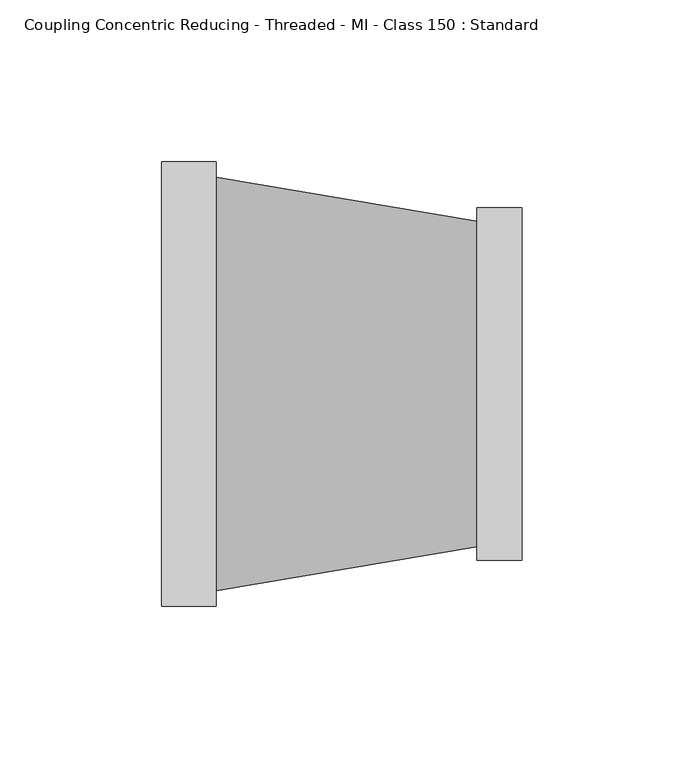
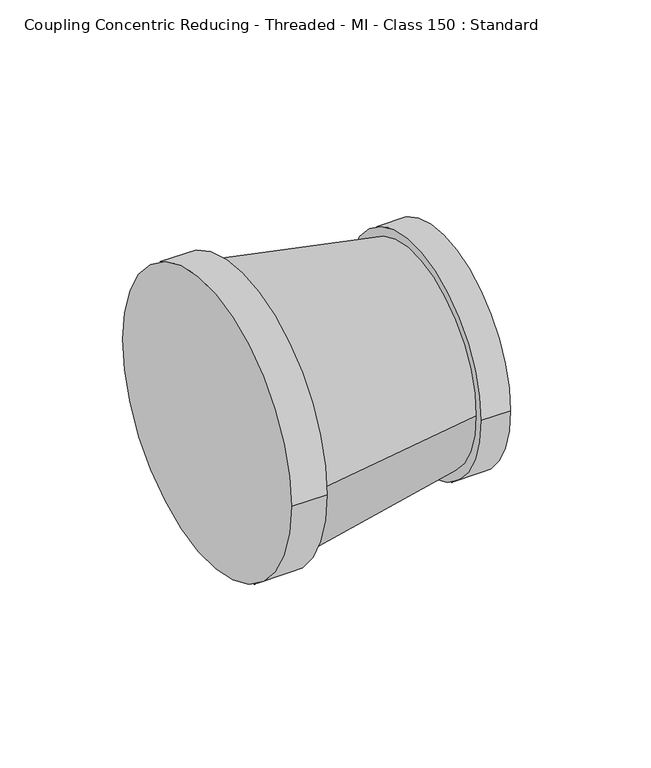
"""IFC4 building model written with IfcOpenShell, lengths in millimetres: pipe fitting geometry, Coupling Concentric Reducing - Threaded - MI - Class 150 : Standard."""

from ifc_helpers import new_model, si_unit, frame, origin, place, context, project, spatial, polyline, circle_curve, source, transform, mapped, element, save
from ifc_brep_helpers import plane_surface, cylinder_surface, revolved_surface, advanced_brep


def coupling_concentric_reducing_threaded_mi_class_150_standard_01227178(model_context):
    return source(origin(), model_context, "Body", "AdvancedBrep", [
        advanced_brep(
        [(16.8, 63.93, 0.0), (97.4, 50.32, 0.0), (97.4, -50.32, 0.0), (16.8, -63.93, 0.0), (111.3, -54.4, 0.0), (111.3, 54.4, 0.0), (97.4, -54.4, 0.0), (97.4, 54.4, 0.0), (16.8, -68.6, 0.0), (16.8, 68.6, 0.0), (0.0, -68.6, 0.0), (0.0, 68.6, 0.0)],
        [
            (0, 1),
            (1, 2, circle_curve(frame((97.4, 0.0, 0.0), z_axis=(-1.0, 0.0, 0.0), x_axis=(0.0, -1.0, 0.0)), 50.32)),
            (2, 3),
            (3, 0, circle_curve(frame((16.8, 0.0, 0.0), z_axis=(1.0, 0.0, 0.0), x_axis=(0.0, -1.0, 0.0)), 63.93)),
            (0, 3, circle_curve(frame((16.8, 0.0, 0.0), z_axis=(1.0, 0.0, 0.0), x_axis=(0.0, 1.0, 0.0)), 63.93)),
            (2, 1, circle_curve(frame((97.4, 0.0, 0.0), z_axis=(-1.0, 0.0, 0.0), x_axis=(0.0, 1.0, 0.0)), 50.32)),
            (4, 5, circle_curve(frame((111.3, 0.0, 0.0), z_axis=(1.0, 0.0, 0.0), x_axis=(0.0, 1.0, 0.0)), 54.4)),
            (5, 4, circle_curve(frame((111.3, 0.0, 0.0), z_axis=(1.0, 0.0, 0.0), x_axis=(0.0, 1.0, 0.0)), 54.4)),
            (6, 7, circle_curve(frame((97.4, 0.0, 0.0), z_axis=(-1.0, 0.0, 0.0), x_axis=(0.0, 1.0, 0.0)), 54.4)),
            (7, 6, circle_curve(frame((97.4, 0.0, 0.0), z_axis=(-1.0, 0.0, 0.0), x_axis=(0.0, 1.0, 0.0)), 54.4)),
            (4, 6),
            (7, 5),
            (8, 9, circle_curve(frame((16.8, 0.0, 0.0), z_axis=(1.0, 0.0, 0.0), x_axis=(0.0, 1.0, 0.0)), 68.6)),
            (9, 8, circle_curve(frame((16.8, 0.0, 0.0), z_axis=(1.0, 0.0, 0.0), x_axis=(0.0, 1.0, 0.0)), 68.6)),
            (10, 11, circle_curve(frame((0.0, 0.0, 0.0), z_axis=(-1.0, 0.0, 0.0), x_axis=(0.0, 1.0, 0.0)), 68.6)),
            (11, 10, circle_curve(frame((0.0, 0.0, 0.0), z_axis=(-1.0, 0.0, 0.0), x_axis=(0.0, 1.0, 0.0)), 68.6)),
            (8, 10),
            (11, 9),
        ],
        [
            revolved_surface(polyline([(97.39999999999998, 50.319999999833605, 0.0), (16.80000000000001, 63.93, 0.0)]), (395.4008817, 0.0, 0.0), (-1.0, 0.0, 0.0)),
            plane_surface(frame((111.3, 54.4, 0.0), z_axis=(1.0, 0.0, 0.0), x_axis=(0.0, 0.0, 1.0))),
            plane_surface(frame((97.4, 54.4, 0.0), z_axis=(-1.0, 0.0, 0.0), x_axis=(0.0, 0.0, -1.0))),
            cylinder_surface(frame((97.4, 0.0, 0.0), z_axis=(1.0, 0.0, 0.0), x_axis=(0.0, 1.0, 0.0)), 54.4),
            plane_surface(frame((16.8, 68.6, 0.0), z_axis=(1.0, 0.0, 0.0), x_axis=(0.0, 0.0, 1.0))),
            plane_surface(frame((0.0, 68.6, 0.0), z_axis=(-1.0, 0.0, 0.0), x_axis=(0.0, 0.0, -1.0))),
            cylinder_surface(frame((0.0, 0.0, 0.0), z_axis=(1.0, 0.0, 0.0), x_axis=(0.0, 1.0, 0.0)), 68.6),
        ],
        [
            (0, [[1, 2, 3, 4]]),
            (0, [[-1, 5, -3, 6]]),
            (1, [[7, 8]]),
            (2, [[9, 10], [-2, -6]]),
            (3, [[-7, 11, -10, 12]]),
            (3, [[-8, -12, -9, -11]]),
            (4, [[13, 14], [-4, -5]]),
            (5, [[15, 16]]),
            (6, [[-13, 17, -16, 18]]),
            (6, [[-14, -18, -15, -17]]),
        ],
    ),
    ])


if __name__ == "__main__":
    model = new_model("IFC4")
    model_context = context("Model", 3, world=origin())
    ifc_project = project(units=[si_unit("LENGTHUNIT", "METRE", prefix="MILLI")], contexts=[model_context])
    site = spatial("IfcSite", under=ifc_project)
    building = spatial("IfcBuilding", under=site)
    placement = place(None, origin())
    coupling_concentric_reducing_threaded_mi_class_150_standard_shape = coupling_concentric_reducing_threaded_mi_class_150_standard_01227178(model_context)
    element("IfcPipeFitting", 1, ObjectType="Coupling Concentric Reducing - Threaded - MI - Class 150 : Standard", at=placement, inside=building, context=model_context, shape_type="MappedRepresentation", body=[
        mapped(coupling_concentric_reducing_threaded_mi_class_150_standard_shape, transform((0.0, 0.0, 0.0), x_axis=(1.0, 0.0, 0.0), y_axis=(0.0, 1.0, 0.0), z_axis=(0.0, 0.0, 1.0))),
    ])
    save(model, "model.ifc")
